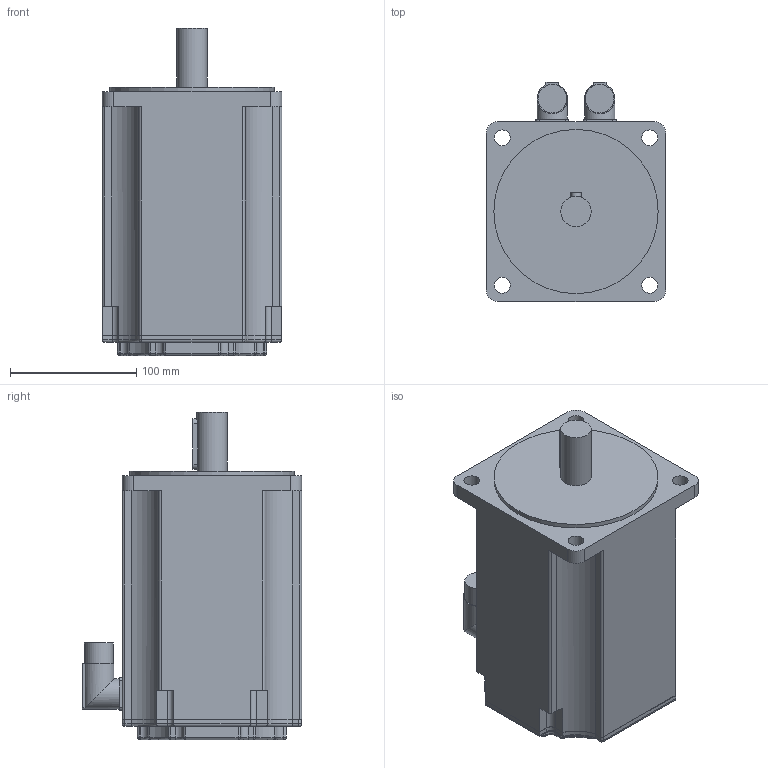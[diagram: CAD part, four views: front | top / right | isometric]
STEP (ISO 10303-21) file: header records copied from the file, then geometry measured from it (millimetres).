
FILE_DESCRIPTION(/* description */ (''),/* implementation_level */ '2;1');
FILE_NAME(/* name */ '\\Lafnas01\disegni\Archivi Lafert\3D\CAD 3D\MODELLI\Assiemi clienti\Serad\Modelli 3D Serad\B71Q\Encoder\Enc Without Brake\B7112Qxx6ARx2033.ipt.stp',/* time_stamp */ '2015-09-07T10:52:27+02:00',/* author */ ('Pastrello Ylenia'),/* organization */ (''),/* preprocessor_version */ 'ST-DEVELOPER v15.6',/* originating_system */ 'Autodesk Inventor 2015',/* authorisation */ '');
FILE_SCHEMA (('AUTOMOTIVE_DESIGN { 1 0 10303 214 3 1 1 }'));
Length unit declared in the file: millimetre
Products named in the file (1): B7112Qxx6ARx2033
Bounding box: 142 x 173.5 x 259 mm (x, y, z)
Volume: 3699319.5 mm3; surface area: 162021.8 mm2
Topology: 1 solids, 1 shells, 251 faces, 624 edges, 386 vertices
Faces by surface type: cylinder 118, plane 93, torus 20, sphere 20
Full cylindrical faces by diameter (mm): 12.5 x4, 22.7 x2, 24 x3, 130 x1
Entity records: 7508 total; most frequent: CARTESIAN_POINT 1382, DIRECTION 1362, ORIENTED_EDGE 1220, EDGE_CURVE 610, AXIS2_PLACEMENT_3D 510, VERTEX_POINT 382, LINE 342, VECTOR 342
